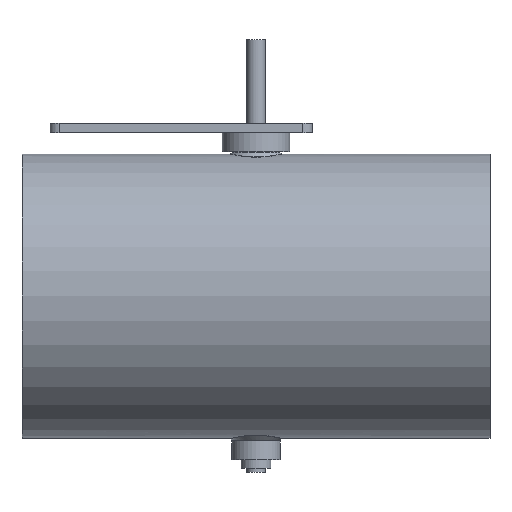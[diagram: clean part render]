
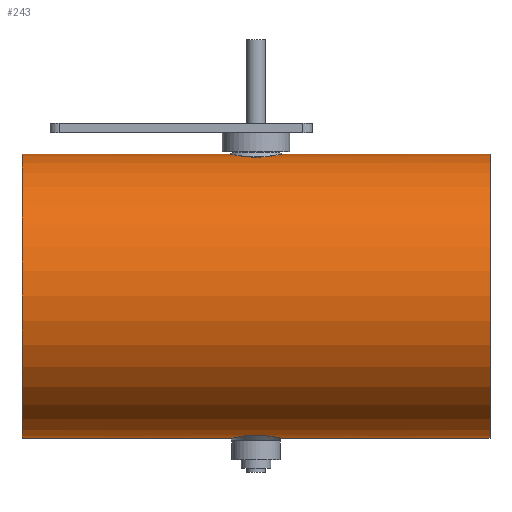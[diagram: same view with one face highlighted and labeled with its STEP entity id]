
A CAD part, top view. The second image highlights one B-rep face of the part: STEP entity #243.
In plain terms, the highlighted cylindrical face has radius 75.8 mm (diameter 151.6 mm), a full revolution.
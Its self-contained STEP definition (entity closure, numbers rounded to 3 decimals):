
#107=B_SPLINE_CURVE_WITH_KNOTS('',3,(#1457,#1458,#1459,#1460,#1461,#1462,
#1463,#1464,#1465,#1466,#1467,#1468,#1469,#1470,#1471,#1472,#1473,#1474,
#1475,#1476,#1477,#1478),.UNSPECIFIED.,.T.,.F.,(2,2,2,2,2,2,2,2,2,2,2,2,
2),(-0.062,0.,0.125,0.25,0.375,0.438,0.5,0.625,0.75,0.875,
0.938,1.,1.125),.UNSPECIFIED.);
#108=B_SPLINE_CURVE_WITH_KNOTS('',3,(#1480,#1481,#1482,#1483,#1484,#1485,
#1486,#1487,#1488,#1489,#1490,#1491,#1492,#1493,#1494,#1495,#1496,#1497,
#1498,#1499,#1500,#1501),.UNSPECIFIED.,.T.,.F.,(2,2,2,2,2,2,2,2,2,2,2,2,
2),(-0.125,0.,0.063,0.125,0.25,0.375,0.5,0.563,0.625,0.75,0.875,1.,1.063),
 .UNSPECIFIED.);
#205=CYLINDRICAL_SURFACE('',#1024,75.8);
#243=ADVANCED_FACE('',(#359,#360,#361,#362),#205,.T.);
#359=FACE_BOUND('',#477,.T.);
#360=FACE_BOUND('',#478,.T.);
#361=FACE_BOUND('',#479,.T.);
#362=FACE_BOUND('',#480,.T.);
#477=EDGE_LOOP('',(#623));
#478=EDGE_LOOP('',(#624));
#479=EDGE_LOOP('',(#625));
#480=EDGE_LOOP('',(#626));
#623=ORIENTED_EDGE('',*,*,#855,.T.);
#624=ORIENTED_EDGE('',*,*,#856,.T.);
#625=ORIENTED_EDGE('',*,*,#851,.T.);
#626=ORIENTED_EDGE('',*,*,#853,.T.);
#767=VERTEX_POINT('',#1448);
#769=VERTEX_POINT('',#1453);
#771=VERTEX_POINT('',#1479);
#772=VERTEX_POINT('',#1502);
#851=EDGE_CURVE('',#767,#767,#935,.T.);
#853=EDGE_CURVE('',#769,#769,#937,.T.);
#855=EDGE_CURVE('',#771,#771,#107,.T.);
#856=EDGE_CURVE('',#772,#772,#108,.T.);
#935=CIRCLE('',#1018,75.8);
#937=CIRCLE('',#1021,75.8);
#1018=AXIS2_PLACEMENT_3D('',#1447,#1196,#1197);
#1021=AXIS2_PLACEMENT_3D('',#1452,#1202,#1203);
#1024=AXIS2_PLACEMENT_3D('',#1503,#1208,#1209);
#1196=DIRECTION('',(-1.,0.,0.));
#1197=DIRECTION('',(0.,0.,1.));
#1202=DIRECTION('',(1.,0.,0.));
#1203=DIRECTION('',(0.,0.,-1.));
#1208=DIRECTION('',(1.,0.,0.));
#1209=DIRECTION('',(0.,0.,-1.));
#1447=CARTESIAN_POINT('',(125.,-33.3,125.));
#1448=CARTESIAN_POINT('',(125.,-33.3,200.8));
#1452=CARTESIAN_POINT('',(-125.,-33.3,125.));
#1453=CARTESIAN_POINT('',(-125.,-33.3,49.2));
#1457=CARTESIAN_POINT('',(-1.915,-107.469,109.347));
#1458=CARTESIAN_POINT('',(-7.562,-107.826,111.109));
#1459=CARTESIAN_POINT('',(-10.621,-108.374,113.968));
#1460=CARTESIAN_POINT('',(-14.122,-109.069,120.892));
#1461=CARTESIAN_POINT('',(-14.603,-109.195,125.036));
#1462=CARTESIAN_POINT('',(-12.852,-108.813,132.605));
#1463=CARTESIAN_POINT('',(-10.608,-108.314,136.114));
#1464=CARTESIAN_POINT('',(-5.817,-107.729,139.396));
#1465=CARTESIAN_POINT('',(-3.978,-107.568,140.164));
#1466=CARTESIAN_POINT('',(-0.112,-107.436,140.797));
#1467=CARTESIAN_POINT('',(1.892,-107.468,140.655));
#1468=CARTESIAN_POINT('',(7.524,-107.822,138.912));
#1469=CARTESIAN_POINT('',(10.597,-108.369,136.071));
#1470=CARTESIAN_POINT('',(14.133,-109.071,129.094));
#1471=CARTESIAN_POINT('',(14.606,-109.195,124.972));
#1472=CARTESIAN_POINT('',(12.847,-108.811,117.377));
#1473=CARTESIAN_POINT('',(10.591,-108.311,113.868));
#1474=CARTESIAN_POINT('',(5.799,-107.727,110.595));
#1475=CARTESIAN_POINT('',(3.94,-107.566,109.826));
#1476=CARTESIAN_POINT('',(0.102,-107.437,109.205));
#1477=CARTESIAN_POINT('',(-1.915,-107.469,109.347));
#1478=CARTESIAN_POINT('',(-7.562,-107.826,111.109));
#1479=CARTESIAN_POINT('',(-3.798,-107.588,109.935));
#1480=CARTESIAN_POINT('',(-7.563,41.226,111.109));
#1481=CARTESIAN_POINT('',(-1.915,40.869,109.347));
#1482=CARTESIAN_POINT('',(0.083,40.837,109.204));
#1483=CARTESIAN_POINT('',(3.931,40.966,109.822));
#1484=CARTESIAN_POINT('',(5.783,41.125,110.584));
#1485=CARTESIAN_POINT('',(10.614,41.714,113.883));
#1486=CARTESIAN_POINT('',(12.856,42.213,117.393));
#1487=CARTESIAN_POINT('',(14.607,42.596,124.998));
#1488=CARTESIAN_POINT('',(14.117,42.467,129.126));
#1489=CARTESIAN_POINT('',(10.611,41.772,136.043));
#1490=CARTESIAN_POINT('',(7.552,41.226,138.889));
#1491=CARTESIAN_POINT('',(1.943,40.87,140.647));
#1492=CARTESIAN_POINT('',(-0.037,40.836,140.8));
#1493=CARTESIAN_POINT('',(-3.935,40.965,140.18));
#1494=CARTESIAN_POINT('',(-5.777,41.125,139.417));
#1495=CARTESIAN_POINT('',(-10.595,41.711,136.134));
#1496=CARTESIAN_POINT('',(-12.844,42.211,132.638));
#1497=CARTESIAN_POINT('',(-14.61,42.596,125.007));
#1498=CARTESIAN_POINT('',(-14.139,42.472,120.921));
#1499=CARTESIAN_POINT('',(-10.599,41.769,113.927));
#1500=CARTESIAN_POINT('',(-7.563,41.226,111.109));
#1501=CARTESIAN_POINT('',(-1.915,40.869,109.347));
#1502=CARTESIAN_POINT('',(-3.798,40.988,109.935));
#1503=CARTESIAN_POINT('',(-125.,-33.3,125.));
